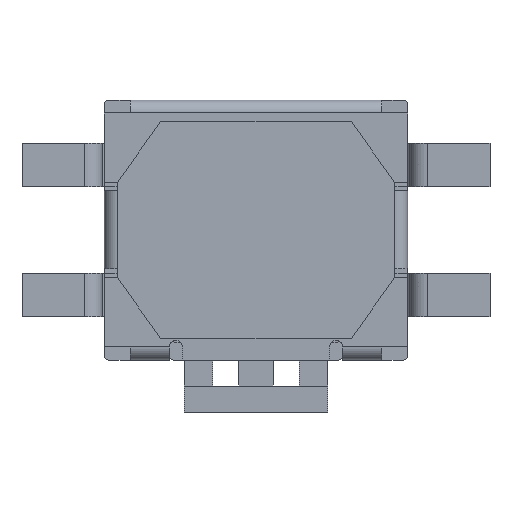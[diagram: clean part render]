
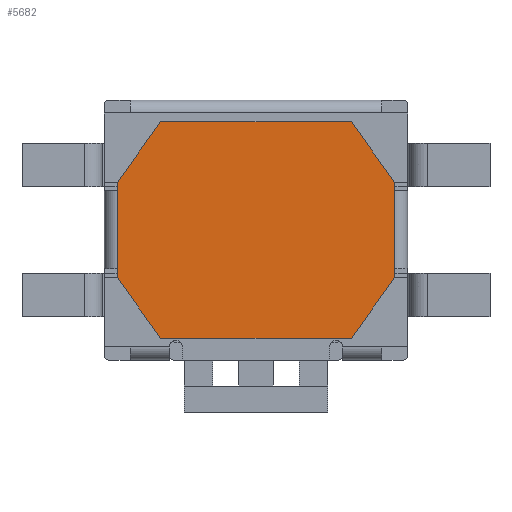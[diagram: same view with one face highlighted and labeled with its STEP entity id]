
A CAD part, front view. The second image highlights one B-rep face of the part: STEP entity #5682.
In plain terms, the highlighted planar face has unit normal (0, -1, 0).
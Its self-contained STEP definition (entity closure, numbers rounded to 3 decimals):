
#5477=DIRECTION('',(0.581,0.,-0.814));
#5478=VECTOR('',#5477,0.86);
#5479=CARTESIAN_POINT('',(-1.6,-0.17,-0.55));
#5480=LINE('',#5479,#5478);
#5484=DIRECTION('',(0.,0.,1.));
#5485=VECTOR('',#5484,1.1);
#5486=CARTESIAN_POINT('',(-1.6,-0.17,-0.55));
#5487=LINE('',#5486,#5485);
#5491=DIRECTION('',(-0.581,0.,-0.814));
#5492=VECTOR('',#5491,0.86);
#5493=CARTESIAN_POINT('',(-1.1,-0.17,1.25));
#5494=LINE('',#5493,#5492);
#5498=DIRECTION('',(1.,0.,0.));
#5499=VECTOR('',#5498,2.2);
#5500=CARTESIAN_POINT('',(-1.1,-0.17,1.25));
#5501=LINE('',#5500,#5499);
#5505=DIRECTION('',(-0.581,0.,0.814));
#5506=VECTOR('',#5505,0.86);
#5507=CARTESIAN_POINT('',(1.6,-0.17,0.55));
#5508=LINE('',#5507,#5506);
#5512=DIRECTION('',(0.,0.,-1.));
#5513=VECTOR('',#5512,1.1);
#5514=CARTESIAN_POINT('',(1.6,-0.17,0.55));
#5515=LINE('',#5514,#5513);
#5519=DIRECTION('',(0.581,0.,0.814));
#5520=VECTOR('',#5519,0.86);
#5521=CARTESIAN_POINT('',(1.1,-0.17,-1.25));
#5522=LINE('',#5521,#5520);
#5526=DIRECTION('',(-1.,0.,0.));
#5527=VECTOR('',#5526,2.2);
#5528=CARTESIAN_POINT('',(1.1,-0.17,-1.25));
#5529=LINE('',#5528,#5527);
#5589=CARTESIAN_POINT('',(-1.6,-0.17,-0.55));
#5590=CARTESIAN_POINT('',(-1.1,-0.17,-1.25));
#5591=VERTEX_POINT('',#5589);
#5592=VERTEX_POINT('',#5590);
#5601=CARTESIAN_POINT('',(1.1,-0.17,-1.25));
#5602=VERTEX_POINT('',#5601);
#5603=CARTESIAN_POINT('',(-1.6,-0.17,0.55));
#5604=VERTEX_POINT('',#5603);
#5605=CARTESIAN_POINT('',(1.6,-0.17,-0.55));
#5606=VERTEX_POINT('',#5605);
#5609=CARTESIAN_POINT('',(1.6,-0.17,0.55));
#5610=CARTESIAN_POINT('',(1.1,-0.17,1.25));
#5611=VERTEX_POINT('',#5609);
#5612=VERTEX_POINT('',#5610);
#5617=CARTESIAN_POINT('',(-1.1,-0.17,1.25));
#5618=VERTEX_POINT('',#5617);
#5660=CARTESIAN_POINT('',(0.,-0.17,0.));
#5661=DIRECTION('',(0.,1.,0.));
#5662=DIRECTION('',(1.,0.,0.));
#5663=AXIS2_PLACEMENT_3D('',#5660,#5661,#5662);
#5664=PLANE('',#5663);
#5665=ORIENTED_EDGE('',*,*,#5650,.F.);
#5667=ORIENTED_EDGE('',*,*,#5666,.T.);
#5669=ORIENTED_EDGE('',*,*,#5668,.F.);
#5671=ORIENTED_EDGE('',*,*,#5670,.T.);
#5673=ORIENTED_EDGE('',*,*,#5672,.F.);
#5675=ORIENTED_EDGE('',*,*,#5674,.T.);
#5677=ORIENTED_EDGE('',*,*,#5676,.F.);
#5679=ORIENTED_EDGE('',*,*,#5678,.T.);
#5680=EDGE_LOOP('',(#5665,#5667,#5669,#5671,#5673,#5675,#5677,#5679));
#5681=FACE_OUTER_BOUND('',#5680,.F.);
#5650=EDGE_CURVE('',#5591,#5592,#5480,.T.);
#5666=EDGE_CURVE('',#5591,#5604,#5487,.T.);
#5668=EDGE_CURVE('',#5618,#5604,#5494,.T.);
#5670=EDGE_CURVE('',#5618,#5612,#5501,.T.);
#5672=EDGE_CURVE('',#5611,#5612,#5508,.T.);
#5674=EDGE_CURVE('',#5611,#5606,#5515,.T.);
#5676=EDGE_CURVE('',#5602,#5606,#5522,.T.);
#5678=EDGE_CURVE('',#5602,#5592,#5529,.T.);
#5682=ADVANCED_FACE('',(#5681),#5664,.F.);
